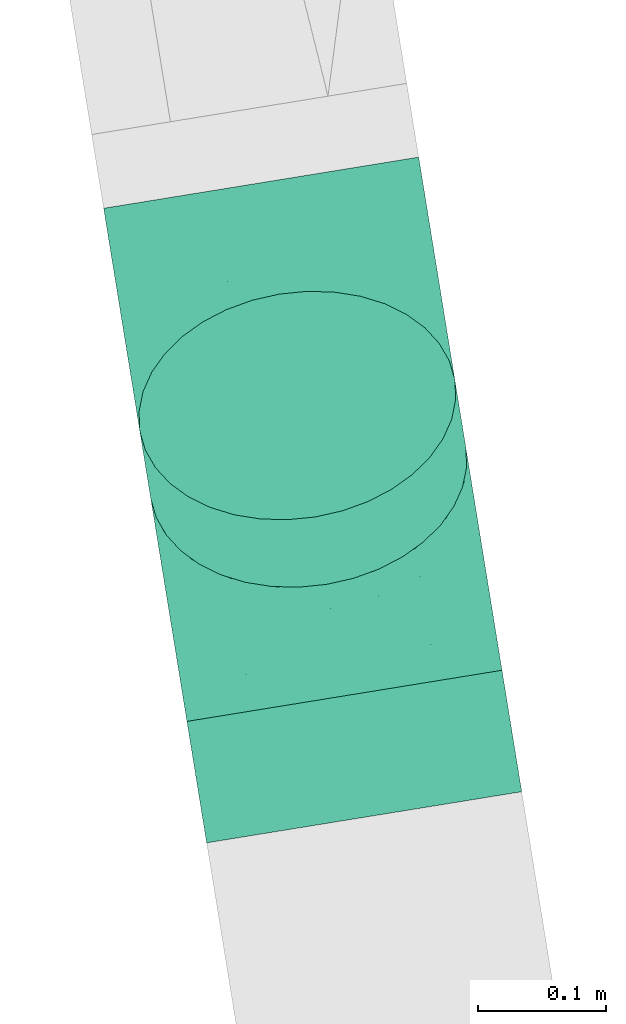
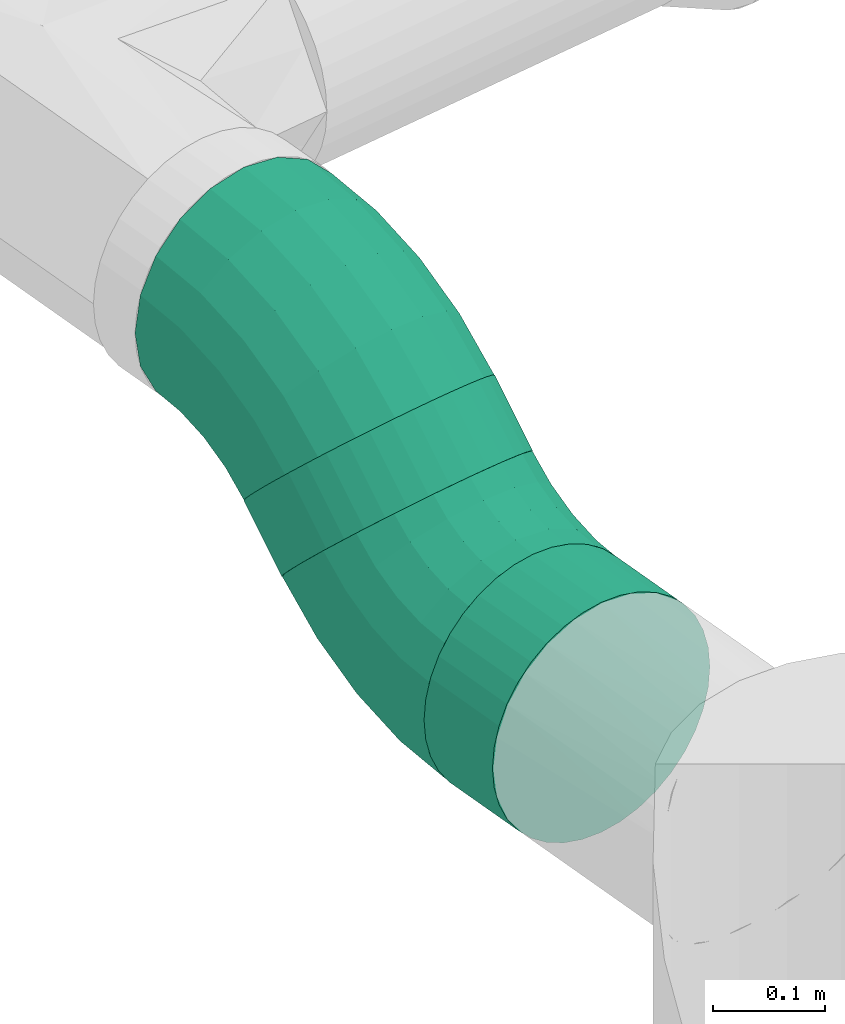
# One storey, part 14 of 39: 2 flow fittings, 2 flow segments.
"""IFC2X3 building model written with IfcOpenShell, lengths in millimetres."""

from ifc_helpers import new_model, entity, si_unit, converted_unit, derived_unit, direction, frame, frame_2d, origin, origin_with_axes, origin_2d_with_axis, place, context, subcontext, project, spatial, circle, extrude, faceted_brep, source, transform, mapped, material, type_object, element, save


model = new_model("IFC2X3")

# Units and contexts
model_context = context("Model", 3, precision=0.01, world=origin(), true_north=direction((6.12323399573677e-17, 1.0)))
plan_context = context("Plan", 3, precision=1e-05, world=origin_with_axes())
body_context = subcontext(model_context, "Body", "Model", "MODEL_VIEW")
ifc_project = project(units=[converted_unit("PLANEANGLEUNIT", "DEGREE", entity("IfcPositiveLengthMeasure", 0.0174532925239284), si_unit("PLANEANGLEUNIT", "RADIAN"), dimensions=[0, 0, 0, 0, 0, 0, 0]), si_unit("AREAUNIT", "SQUARE_METRE"), si_unit("LENGTHUNIT", "METRE", prefix="MILLI"), si_unit("MASSUNIT", "GRAM", prefix="KILO"), si_unit("POWERUNIT", "WATT"), si_unit("PRESSUREUNIT", "PASCAL", prefix="KILO"), si_unit("FORCEUNIT", "NEWTON", prefix="KILO"), si_unit("ELECTRICVOLTAGEUNIT", "VOLT"), si_unit("ELECTRICCURRENTUNIT", "AMPERE"), si_unit("THERMODYNAMICTEMPERATUREUNIT", "DEGREE_CELSIUS"), si_unit("TIMEUNIT", "SECOND"), si_unit("VOLUMEUNIT", "CUBIC_METRE"), derived_unit("LINEARVELOCITYUNIT", [(si_unit("LENGTHUNIT", "METRE"), 1), (si_unit("TIMEUNIT", "SECOND"), -1)]), derived_unit("VOLUMETRICFLOWRATEUNIT", [(si_unit("VOLUMEUNIT", "CUBIC_METRE"), 1), (si_unit("TIMEUNIT", "SECOND"), -1)]), derived_unit("THERMALTRANSMITTANCEUNIT", [(si_unit("POWERUNIT", "WATT"), 1), (si_unit("THERMODYNAMICTEMPERATUREUNIT", "KELVIN"), -1), (si_unit("AREAUNIT", "SQUARE_METRE"), -1)]), derived_unit("SOUNDPRESSUREUNIT", [(si_unit("PRESSUREUNIT", "PASCAL"), 1)])], contexts=[model_context, plan_context])

# Site, building, storey
site_placement = place(None, frame((-0.00071070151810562, 0.00438415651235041, 0.0), z_axis=(0.0, 0.0, 1.0), x_axis=(-0.160236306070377, 0.987078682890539, 0.0)))
site = spatial("IfcSite", under=ifc_project, at=site_placement, Name="Default", CompositionType="ELEMENT")
building_placement = place(site_placement, origin_with_axes())
building = spatial("IfcBuilding", under=site, at=building_placement, CompositionType="ELEMENT")
storey_placement = place(building_placement, frame((0.0, 0.0, 50999.9999999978), z_axis=(0.0, 0.0, 1.0), x_axis=(1.0, 0.0, 0.0)))
storey = spatial("IfcBuildingStorey", under=building, at=storey_placement, Name="Nivå D", CompositionType="ELEMENT", Elevation=50999.9999999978)

# Flow fittings
ifc_material = material(Name="<Unnamed>")
duct_fitting_type = type_object("IfcDuctFittingType", Name="magicirc_elbow_full_radius_1:magicirc_elbow_full_radius_001", PredefinedType="NOTDEFINED", material=ifc_material)
shared_shape = source(origin(), body_context, "Body", "Brep", [
    faceted_brep([(-30.3945198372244, -117.794480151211, 0.0), (-31.5880698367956, -111.79409910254, 38.6271242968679), (-103.553390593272, -118.882064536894, 38.6271242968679), (-103.553390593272, -125.0, 0.0), (-35.0518868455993, -94.3803150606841, 73.4731565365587), (-103.553390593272, -101.127124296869, 73.4731565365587), (-40.4469083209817, -67.2577105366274, 101.127124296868), (-103.553390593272, -73.4731565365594, 101.127124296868), (-47.2450319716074, -33.0812350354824, 118.882064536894), (-103.553390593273, -38.6271242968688, 118.882064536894), (-54.7808100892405, 4.80367989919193, 125.0), (-103.553390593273, 0.0, 125.0), (-62.3165882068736, 42.6885948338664, 118.882064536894), (-103.553390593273, 38.6271242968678, 118.882064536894), (-69.1147118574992, 76.8650703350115, 101.127124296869), (-103.553390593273, 73.4731565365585, 101.127124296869), (-74.5097333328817, 103.987674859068, 73.4731565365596), (-103.553390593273, 101.127124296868, 73.4731565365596), (-77.9735503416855, 121.401458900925, 38.6271242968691), (-103.553390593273, 118.882064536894, 38.6271242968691), (-79.1671003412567, 127.401839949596, 0.0), (-103.553390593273, 125.0, 0.0), (-77.9735503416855, 121.401458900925, -38.6271242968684), (-103.553390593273, 118.882064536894, -38.6271242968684), (-74.5097333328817, 103.987674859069, -73.473156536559), (-103.553390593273, 101.127124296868, -73.473156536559), (-69.1147118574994, 76.8650703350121, -101.127124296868), (-103.553390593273, 73.4731565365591, -101.127124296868), (-62.3165882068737, 42.6885948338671, -118.882064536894), (-103.553390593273, 38.6271242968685, -118.882064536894), (-54.7808100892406, 4.80367989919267, -125.0), (-103.553390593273, 0.0, -125.0), (-47.2450319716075, -33.0812350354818, -118.882064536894), (-103.553390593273, -38.6271242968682, -118.882064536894), (-40.4469083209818, -67.2577105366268, -101.127124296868), (-103.553390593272, -73.4731565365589, -101.127124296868), (-35.0518868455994, -94.3803150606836, -73.4731565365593), (-103.553390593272, -101.127124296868, -73.4731565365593), (-31.5880698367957, -111.79409910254, -38.6271242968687), (-103.553390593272, -118.882064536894, -38.6271242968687), (39.952896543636, -96.4548246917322, 0.0), (37.6116640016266, -90.8025893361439, 38.6271242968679), (30.8171425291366, -74.3991634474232, 73.4731565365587), (20.2344272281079, -48.8502286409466, 101.127124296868), (6.89942800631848, -16.656692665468, 118.882064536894), (-7.88253250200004, 19.030116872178, 125.0), (-22.6644930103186, 54.7169264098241, 118.882064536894), (-35.9994922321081, 86.9104623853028, 101.127124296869), (-46.5822075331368, 112.45939719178, 73.4731565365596), (-53.376729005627, 128.862823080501, 38.6271242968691), (-55.7179615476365, 134.515058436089, 0.0), (-53.3767290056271, 128.862823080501, -38.6271242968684), (-46.582207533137, 112.45939719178, -73.473156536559), (-35.9994922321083, 86.9104623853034, -101.127124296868), (-22.6644930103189, 54.7169264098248, -118.882064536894), (-7.88253250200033, 19.0301168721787, -125.0), (6.89942800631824, -16.6566926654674, -118.882064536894), (20.2344272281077, -48.8502286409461, -101.127124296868), (30.8171425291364, -74.3991634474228, -73.4731565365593), (37.6116640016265, -90.8025893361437, -38.6271242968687), (104.785446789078, -61.801104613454, 0.0), (101.386503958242, -56.7142271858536, 38.6271242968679), (91.5223876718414, -41.9515339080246, 73.4731565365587), (76.1586663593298, -18.9581000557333, 101.127124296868), (56.7992481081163, 10.0153168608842, 118.882064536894), (35.3391676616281, 42.1325969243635, 125.0), (13.8790872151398, 74.2498769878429, 118.882064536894), (-5.48033103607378, 103.22329390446, 101.127124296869), (-20.8440523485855, 126.216727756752, 73.4731565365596), (-30.7081686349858, 140.979421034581, 38.6271242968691), (-34.1071114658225, 146.066298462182, 0.0), (-30.7081686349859, 140.979421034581, -38.6271242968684), (-20.8440523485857, 126.216727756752, -73.473156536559), (-5.48033103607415, 103.223293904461, -101.127124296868), (13.8790872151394, 74.2498769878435, -118.882064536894), (35.3391676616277, 42.1325969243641, -125.0), (56.799248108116, 10.0153168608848, -118.882064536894), (76.1586663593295, -18.9581000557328, -101.127124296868), (91.5223876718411, -41.9515339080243, -73.4731565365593), (101.386503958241, -56.7142271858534, -38.6271242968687), (161.611652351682, -15.1650429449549, 0.0), (157.285618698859, -10.8390092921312, 38.6271242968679), (144.730980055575, 1.7156293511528, 73.4731565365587), (125.176671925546, 21.2699374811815, 101.127124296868), (100.536806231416, 45.9098031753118, 118.882064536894), (73.2233047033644, 73.223304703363, 125.0), (45.9098031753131, 100.536806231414, 118.882064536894), (21.2699374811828, 125.176671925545, 101.127124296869), (1.71562935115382, 144.730980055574, 73.4731565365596), (-10.8390092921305, 157.285618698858, 38.6271242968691), (-15.1650429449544, 161.611652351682, 0.0), (-10.8390092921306, 157.285618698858, -38.6271242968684), (1.71562935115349, 144.730980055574, -73.473156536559), (21.2699374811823, 125.176671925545, -101.127124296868), (45.9098031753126, 100.536806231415, -118.882064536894), (73.2233047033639, 73.2233047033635, -125.0), (100.536806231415, 45.9098031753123, -118.882064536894), (125.176671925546, 21.269937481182, -101.127124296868), (144.730980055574, 1.71562935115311, -73.4731565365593), (157.285618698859, -10.8390092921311, -38.6271242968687)], [[[0, 1, 2, 3]], [[1, 4, 5, 2]], [[4, 6, 7, 5]], [[6, 8, 9, 7]], [[8, 10, 11, 9]], [[10, 12, 13, 11]], [[12, 14, 15, 13]], [[14, 16, 17, 15]], [[16, 18, 19, 17]], [[18, 20, 21, 19]], [[20, 22, 23, 21]], [[22, 24, 25, 23]], [[24, 26, 27, 25]], [[26, 28, 29, 27]], [[28, 30, 31, 29]], [[30, 32, 33, 31]], [[32, 34, 35, 33]], [[34, 36, 37, 35]], [[36, 38, 39, 37]], [[38, 0, 3, 39]], [[40, 41, 1, 0]], [[41, 42, 4, 1]], [[42, 43, 6, 4]], [[43, 44, 8, 6]], [[44, 45, 10, 8]], [[45, 46, 12, 10]], [[46, 47, 14, 12]], [[47, 48, 16, 14]], [[48, 49, 18, 16]], [[49, 50, 20, 18]], [[50, 51, 22, 20]], [[51, 52, 24, 22]], [[52, 53, 26, 24]], [[53, 54, 28, 26]], [[54, 55, 30, 28]], [[55, 56, 32, 30]], [[56, 57, 34, 32]], [[57, 58, 36, 34]], [[58, 59, 38, 36]], [[59, 40, 0, 38]], [[60, 61, 41, 40]], [[61, 62, 42, 41]], [[62, 63, 43, 42]], [[63, 64, 44, 43]], [[64, 65, 45, 44]], [[65, 66, 46, 45]], [[66, 67, 47, 46]], [[67, 68, 48, 47]], [[68, 69, 49, 48]], [[69, 70, 50, 49]], [[70, 71, 51, 50]], [[71, 72, 52, 51]], [[72, 73, 53, 52]], [[73, 74, 54, 53]], [[74, 75, 55, 54]], [[75, 76, 56, 55]], [[76, 77, 57, 56]], [[77, 78, 58, 57]], [[78, 79, 59, 58]], [[79, 60, 40, 59]], [[80, 81, 61, 60]], [[81, 82, 62, 61]], [[82, 83, 63, 62]], [[83, 84, 64, 63]], [[84, 85, 65, 64]], [[85, 86, 66, 65]], [[86, 87, 67, 66]], [[87, 88, 68, 67]], [[88, 89, 69, 68]], [[89, 90, 70, 69]], [[90, 91, 71, 70]], [[91, 92, 72, 71]], [[92, 93, 73, 72]], [[93, 94, 74, 73]], [[94, 95, 75, 74]], [[95, 96, 76, 75]], [[96, 97, 77, 76]], [[97, 98, 78, 77]], [[98, 99, 79, 78]], [[99, 80, 60, 79]], [[3, 2, 5, 7, 9, 11, 13, 15, 17, 19, 21, 23, 25, 27, 29, 31, 33, 35, 37, 39]], [[99, 98, 97, 96, 95, 94, 93, 92, 91, 90, 89, 88, 87, 86, 85, 84, 83, 82, 81, 80]]]),
])
for number, where, z_axis, x_axis, name in (
    (1, (771352.404158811, -593065.099185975, 3110.0), (0.0, -1.0, 0.0), (1.0, 0.0, 0.0), "magicirc_elbow_full_radius_1:magicirc_elbow_full_radius_001"),
    (2, (771552.404158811, -593065.099185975, 3310.0), (-1.96261557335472e-17, 1.0, 3.01585221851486e-29), (0.707106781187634, 1.38777878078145e-17, 0.707106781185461), "magicirc_elbow_full_radius_1:magicirc_elbow_full_radius_001"),
):
    element("IfcFlowFitting", number, at=place(storey_placement, frame(where, z_axis=z_axis, x_axis=x_axis)), inside=storey, type_object=duct_fitting_type, material=ifc_material, Name=name, ObjectType="magicirc_elbow_full_radius_1:magicirc_elbow_full_radius_001", context=body_context, shape_type="MappedRepresentation", body=[
        mapped(shared_shape, transform((0.0, 0.0, 0.0), scale=1.0)),
    ])

# Flow segments
duct_segment_type = type_object("IfcDuctSegmentType", Name="Round Duct:KK001T - Spiro kanaler, Forsinket stål", PredefinedType="NOTDEFINED")
flow_segment_1_placement = place(storey_placement, origin_with_axes())
element("IfcFlowSegment", 3, at=flow_segment_1_placement, inside=storey, type_object=duct_segment_type, Name="Round Duct:KK001T - Spiro kanaler, Forsinket stål", ObjectType="Round Duct:KK001T - Spiro kanaler, Forsinket stål", context=body_context, shape_type="SweptSolid", body=[
    extrude(circle(Radius=125.0, at=origin_2d_with_axis()), frame((771152.504158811, -593065.099185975, 3110.0), z_axis=(1.0, 0.0, 0.0), x_axis=(0.0, -1.0, 0.0)), (0.0, 0.0, 1.0), 96.34660940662),
])
flow_segment_2_placement = place(storey_placement, origin_with_axes())
element("IfcFlowSegment", 4, at=flow_segment_2_placement, inside=storey, type_object=duct_segment_type, Name="Round Duct:KK001T - Spiro kanaler, Forsinket stål", ObjectType="Round Duct:KK001T - Spiro kanaler, Forsinket stål", context=body_context, shape_type="SweptSolid", body=[
    extrude(circle(Radius=125.0, at=frame_2d((0.0, -6.12562152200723e-12), x_axis=(1.0, 0.0))), frame((771425.627463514, -593065.099185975, 3183.22330470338), z_axis=(0.707106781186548, 0.0, 0.707106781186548), x_axis=(0.0, 1.0, 0.0)), (0.0, 0.0, 1.0), 75.7359312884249),
])

save(model, "model.ifc")
